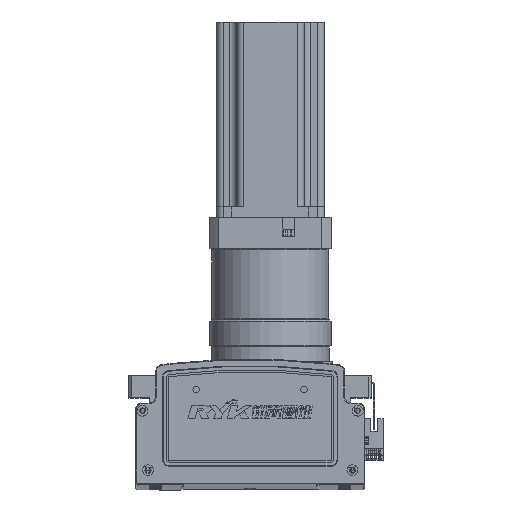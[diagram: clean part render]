
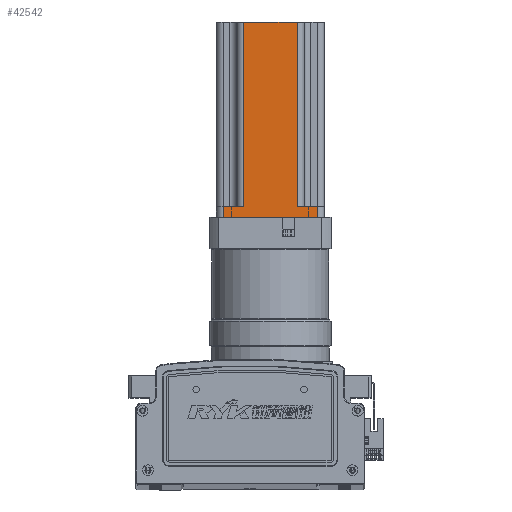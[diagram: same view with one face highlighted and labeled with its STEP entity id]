
A CAD part, top view. The second image highlights one B-rep face of the part: STEP entity #42542.
In plain terms, the highlighted planar face has unit normal (0, 0, 1) as drawn and (0, -1, 0) by its records, which use the part's own axes.
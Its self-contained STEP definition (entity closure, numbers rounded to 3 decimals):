
#6557 = FACE_OUTER_BOUND ( 'NONE', #71555, .T. ) ;
#20337 = ORIENTED_EDGE ( 'NONE', *, *, #22616, .F. ) ;
#20339 = ORIENTED_EDGE ( 'NONE', *, *, #22621, .T. ) ;
#20431 = ORIENTED_EDGE ( 'NONE', *, *, #22705, .T. ) ;
#20446 = ORIENTED_EDGE ( 'NONE', *, *, #22626, .F. ) ;
#20485 = ORIENTED_EDGE ( 'NONE', *, *, #22607, .T. ) ;
#20506 = ORIENTED_EDGE ( 'NONE', *, *, #22695, .T. ) ;
#20518 = ORIENTED_EDGE ( 'NONE', *, *, #22697, .F. ) ;
#20527 = ORIENTED_EDGE ( 'NONE', *, *, #22703, .T. ) ;
#22607 = EDGE_CURVE ( 'NONE', #57843, #57778, #90092, .T. ) ;
#22616 = EDGE_CURVE ( 'NONE', #57754, #57796, #90060, .T. ) ;
#22621 = EDGE_CURVE ( 'NONE', #57754, #57822, #90014, .T. ) ;
#22626 = EDGE_CURVE ( 'NONE', #57816, #57778, #90084, .T. ) ;
#22695 = EDGE_CURVE ( 'NONE', #57924, #57786, #90304, .T. ) ;
#22697 = EDGE_CURVE ( 'NONE', #57843, #57786, #90282, .T. ) ;
#22703 = EDGE_CURVE ( 'NONE', #57816, #57796, #90260, .T. ) ;
#22705 = EDGE_CURVE ( 'NONE', #57822, #57924, #90268, .T. ) ;
#22999 = CARTESIAN_POINT ( 'NONE',  ( -87.587, -40.37, 145. ) ) ;
#23013 = PLANE ( 'NONE',  #54708 ) ;
#23031 = DIRECTION ( 'NONE',  ( 0., 1., 0. ) ) ;
#23036 = DIRECTION ( 'NONE',  ( -1., 0., 0. ) ) ;
#30090 = CARTESIAN_POINT ( 'NONE',  ( -67.587, -40.37, 8. ) ) ;
#30122 = CARTESIAN_POINT ( 'NONE',  ( -82.587, -40.37, 8. ) ) ;
#30131 = CARTESIAN_POINT ( 'NONE',  ( -12.587, -40.37, 8. ) ) ;
#30172 = CARTESIAN_POINT ( 'NONE',  ( -27.587, -40.37, 145. ) ) ;
#30186 = CARTESIAN_POINT ( 'NONE',  ( -12.587, -40.37, 0. ) ) ;
#30189 = CARTESIAN_POINT ( 'NONE',  ( -27.587, -40.37, 8. ) ) ;
#30229 = CARTESIAN_POINT ( 'NONE',  ( -67.587, -40.37, 145. ) ) ;
#30244 = CARTESIAN_POINT ( 'NONE',  ( -82.587, -40.37, 0. ) ) ;
#35915 = DIRECTION ( 'NONE',  ( 0., 0., 1. ) ) ;
#35941 = CARTESIAN_POINT ( 'NONE',  ( -27.587, -40.37, 145. ) ) ;
#35956 = CARTESIAN_POINT ( 'NONE',  ( -87.587, -40.37, 8. ) ) ;
#35964 = DIRECTION ( 'NONE',  ( 0., 0., -1. ) ) ;
#35973 = DIRECTION ( 'NONE',  ( 1., 0., 0. ) ) ;
#35982 = CARTESIAN_POINT ( 'NONE',  ( -82.587, -40.37, 145. ) ) ;
#35989 = CARTESIAN_POINT ( 'NONE',  ( -87.587, -40.37, 145. ) ) ;
#35990 = DIRECTION ( 'NONE',  ( 1., 0., 0. ) ) ;
#36171 = CARTESIAN_POINT ( 'NONE',  ( -87.587, -40.37, 0. ) ) ;
#36174 = DIRECTION ( 'NONE',  ( 1., 0., 0. ) ) ;
#36186 = DIRECTION ( 'NONE',  ( 0., 0., 1. ) ) ;
#36190 = CARTESIAN_POINT ( 'NONE',  ( -67.587, -40.37, 145. ) ) ;
#36192 = DIRECTION ( 'NONE',  ( 1., 0., 0. ) ) ;
#36200 = CARTESIAN_POINT ( 'NONE',  ( -7.587, -40.37, 8. ) ) ;
#36204 = CARTESIAN_POINT ( 'NONE',  ( -12.587, -40.37, 145. ) ) ;
#36208 = DIRECTION ( 'NONE',  ( 0., 0., -1. ) ) ;
#42542 = ADVANCED_FACE ( 'NONE', ( #6557 ), #23013, .F. ) ;
#54708 = AXIS2_PLACEMENT_3D ( 'NONE', #22999, #23031, #23036 ) ;
#57754 = VERTEX_POINT ( 'NONE', #30122 ) ;
#57778 = VERTEX_POINT ( 'NONE', #30172 ) ;
#57786 = VERTEX_POINT ( 'NONE', #30131 ) ;
#57796 = VERTEX_POINT ( 'NONE', #30090 ) ;
#57816 = VERTEX_POINT ( 'NONE', #30229 ) ;
#57822 = VERTEX_POINT ( 'NONE', #30244 ) ;
#57843 = VERTEX_POINT ( 'NONE', #30189 ) ;
#57924 = VERTEX_POINT ( 'NONE', #30186 ) ;
#71555 = EDGE_LOOP ( 'NONE', ( #20337, #20339, #20431, #20506, #20518, #20485, #20446, #20527 ) ) ;
#90008 = VECTOR ( 'NONE', #35973, 1000. ) ;
#90014 = LINE ( 'NONE', #35982, #90062 ) ;
#90022 = VECTOR ( 'NONE', #35915, 1000. ) ;
#90060 = LINE ( 'NONE', #35956, #90008 ) ;
#90062 = VECTOR ( 'NONE', #35964, 1000. ) ;
#90084 = LINE ( 'NONE', #35989, #90100 ) ;
#90092 = LINE ( 'NONE', #35941, #90022 ) ;
#90100 = VECTOR ( 'NONE', #35990, 1000. ) ;
#90260 = LINE ( 'NONE', #36190, #90266 ) ;
#90266 = VECTOR ( 'NONE', #36208, 1000. ) ;
#90268 = LINE ( 'NONE', #36171, #90412 ) ;
#90282 = LINE ( 'NONE', #36200, #90356 ) ;
#90304 = LINE ( 'NONE', #36204, #90306 ) ;
#90306 = VECTOR ( 'NONE', #36186, 1000. ) ;
#90356 = VECTOR ( 'NONE', #36174, 1000. ) ;
#90412 = VECTOR ( 'NONE', #36192, 1000. ) ;
